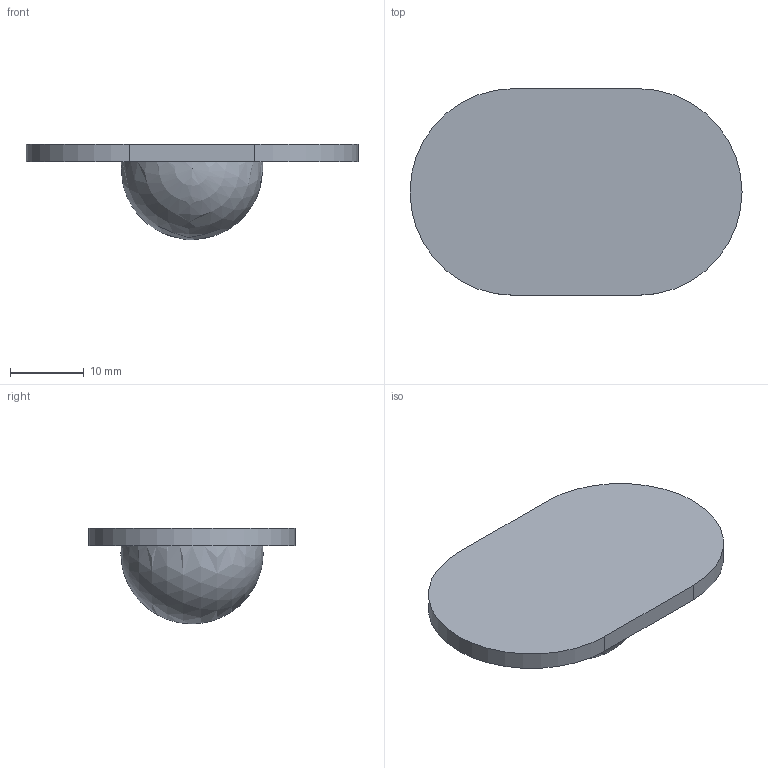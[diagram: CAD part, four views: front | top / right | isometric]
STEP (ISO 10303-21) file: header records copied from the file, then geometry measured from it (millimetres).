
FILE_DESCRIPTION (( 'STEP AP203' ), '1' );
FILE_NAME ('roda_boba.STEP', '2026-08-19T20:49:51', ( '' ), ( '' ), 'SwSTEP 2.0', 'SolidWorks 2024', '' );
FILE_SCHEMA (( 'CONFIG_CONTROL_DESIGN' ));
Length unit declared in the file: millimetre
Products named in the file (1): roda_boba
Bounding box: 45 x 28 x 12.98 mm (x, y, z)
Volume: 4778.9 mm3; surface area: 2829.1 mm2
Topology: 1 solids, 1 shells, 7 faces, 16 edges, 11 vertices
Faces by surface type: plane 4, cylinder 2, sphere 1
Entity records: 255 total; most frequent: DIRECTION 34, CARTESIAN_POINT 30, ORIENTED_EDGE 26, AXIS2_PLACEMENT_3D 13, EDGE_CURVE 13, VERTEX_POINT 9, VECTOR 8, LINE 8
